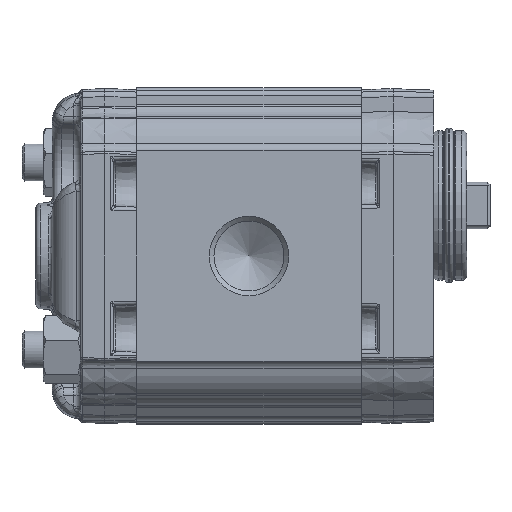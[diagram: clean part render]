
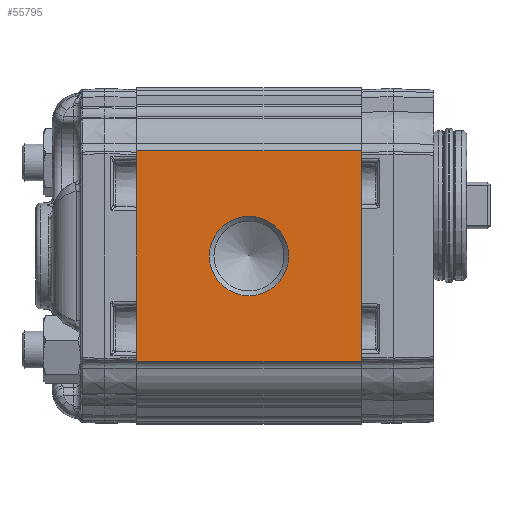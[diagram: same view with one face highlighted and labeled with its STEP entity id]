
A CAD part, left-side view. The second image highlights one B-rep face of the part: STEP entity #55795.
In plain terms, the highlighted planar face has unit normal (-1, 0, 0).
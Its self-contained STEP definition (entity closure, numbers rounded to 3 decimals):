
#4415=LINE('',#97656,#6315);
#4425=LINE('',#97757,#6325);
#4444=LINE('',#97805,#6344);
#4445=LINE('',#97807,#6345);
#6315=VECTOR('',#66059,1000.);
#6325=VECTOR('',#66151,1000.);
#6344=VECTOR('',#66206,1000.);
#6345=VECTOR('',#66209,1000.);
#12021=ORIENTED_EDGE('',*,*,#21439,.F.);
#12022=ORIENTED_EDGE('',*,*,#21537,.T.);
#12023=ORIENTED_EDGE('',*,*,#21509,.T.);
#12024=ORIENTED_EDGE('',*,*,#21538,.T.);
#12025=ORIENTED_EDGE('',*,*,#21459,.F.);
#21439=EDGE_CURVE('',#26468,#26468,#29600,.F.);
#21459=EDGE_CURVE('',#26489,#26490,#4415,.T.);
#21509=EDGE_CURVE('',#26540,#26539,#4425,.T.);
#21537=EDGE_CURVE('',#26489,#26540,#4444,.T.);
#21538=EDGE_CURVE('',#26539,#26490,#4445,.F.);
#26468=VERTEX_POINT('',#97612);
#26489=VERTEX_POINT('',#97655);
#26490=VERTEX_POINT('',#97657);
#26539=VERTEX_POINT('',#97756);
#26540=VERTEX_POINT('',#97758);
#29600=CIRCLE('',#59149,8.475);
#31972=EDGE_LOOP('',(#12021));
#31973=EDGE_LOOP('',(#12022,#12023,#12024,#12025));
#34767=FACE_BOUND('',#31972,.T.);
#34768=FACE_BOUND('',#31973,.T.);
#36662=PLANE('',#59245);
#55795=ADVANCED_FACE('',(#34767,#34768),#36662,.T.);
#59149=AXIS2_PLACEMENT_3D('',#97611,#66016,#66017);
#59245=AXIS2_PLACEMENT_3D('',#97834,#66252,#66253);
#66016=DIRECTION('',(1.,0.,0.));
#66017=DIRECTION('',(0.,0.,-1.));
#66059=DIRECTION('',(0.,0.,1.));
#66151=DIRECTION('',(0.,0.,1.));
#66206=DIRECTION('',(0.,-1.,0.));
#66209=DIRECTION('',(0.,-1.,0.));
#66252=DIRECTION('',(-1.,0.,0.));
#66253=DIRECTION('',(0.,0.,1.));
#97611=CARTESIAN_POINT('',(-33.,24.,0.));
#97612=CARTESIAN_POINT('',(-33.,24.,-8.475));
#97655=CARTESIAN_POINT('',(-33.,48.,-22.5));
#97656=CARTESIAN_POINT('',(-33.,48.,-21.711));
#97657=CARTESIAN_POINT('',(-33.,48.,22.5));
#97756=CARTESIAN_POINT('',(-33.,0.,22.5));
#97757=CARTESIAN_POINT('',(-33.,0.,-21.711));
#97758=CARTESIAN_POINT('',(-33.,0.,-22.5));
#97805=CARTESIAN_POINT('',(-33.,48.,-22.5));
#97807=CARTESIAN_POINT('',(-33.,48.,22.5));
#97834=CARTESIAN_POINT('',(-33.,127.15,48.138));
